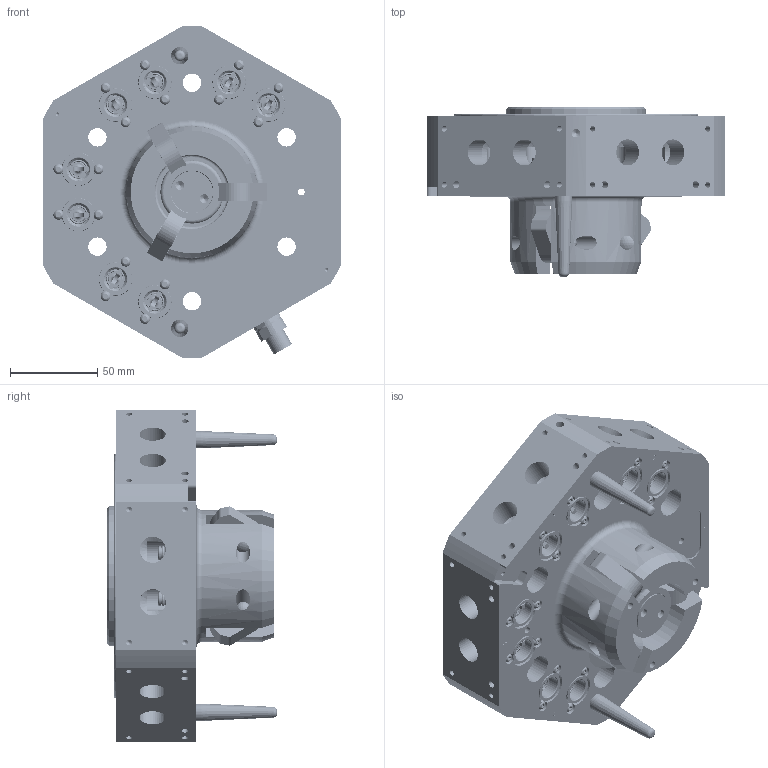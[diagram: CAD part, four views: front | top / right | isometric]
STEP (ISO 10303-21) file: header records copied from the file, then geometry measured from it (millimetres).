
FILE_DESCRIPTION (( 'STEP AP214' ), '1' );
FILE_NAME ('1700072A REV00.STEP', '2019-07-15T18:24:25', ( '' ), ( '' ), 'SwSTEP 2.0', 'SolidWorks 2019', '' );
FILE_SCHEMA (( 'AUTOMOTIVE_DESIGN' ));
Length unit declared in the file: millimetre
Products named in the file (42): 1700037M; 1600-C05N; 0101-P08N; 99502-C1059A; 1507-P01N; 1600-C04N; 1600-C07N; 48427; 97501-P1084; 49185; 0109-P32N; 48016_48016; 88503-P1084; 1600-E03N; 0701-P16N; 98508-P1024; 95500-C1069; 0104-C62N; 97505-P1096; 48012; 0104-B59N; 48008; 49537; 1700072A REV00; 0104-B63N; 0104-B71N; 48414; 0201-P78N; 89501-P1064; 0104-B64N; 99500-B1045; 1700035A; 0107-C47N; 1601-D29A; 0701-P17N
Assembly tree (112 placements, depth 3):
  1700072A REV00
    1601-D29A
      1600-E03N
      1600-C04N
      1600-C05N
      0104-B71N  x2
      0701-P16N
      48427  x2
      0701-P17N
      0109-P32N
      0104-B59N  x3
      0107-C47N  x3
      0104-C62N
      0104-B64N
      0104-B63N
      49185  x2
      0201-P78N
      48016_48016  x6
      49537  x3
    1700035A
      1600-C07N
      1700037M
      1507-P01N  x2
      48414  x2
      48012  x4
      48008  x2
      97501-P1084  x2
      97505-P1096
    99502-C1059A
      99500-B1045
      95500-C1069
      0101-P08N
      89501-P1064
      98508-P1024
      88503-P1084  x2
    99502-C1059A
      99500-B1045
      95500-C1069
      0101-P08N
      89501-P1064
      98508-P1024
      88503-P1084  x2
    99502-C1059A
      99500-B1045
      95500-C1069
      0101-P08N
      89501-P1064
      98508-P1024
      88503-P1084  x2
    99502-C1059A
      99500-B1045
      95500-C1069
      0101-P08N
      89501-P1064
      98508-P1024
      88503-P1084  x2
    99502-C1059A
      99500-B1045
      95500-C1069
      0101-P08N
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Bounding box: 170 x 97 x 190 mm (x, y, z)
Volume: 1096056.4 mm3; surface area: 281276.2 mm2
Topology: 102 solids, 102 shells, 3052 faces, 7171 edges, 4484 vertices
Faces by surface type: plane 1190, cylinder 1021, cone 414, bspline 213, torus 198, sphere 16
Entity records: 80321 total; most frequent: CARTESIAN_POINT 33241, DIRECTION 9035, ORIENTED_EDGE 8954, EDGE_CURVE 4477, AXIS2_PLACEMENT_3D 3398, VERTEX_POINT 2889, VECTOR 2239, LINE 2239
